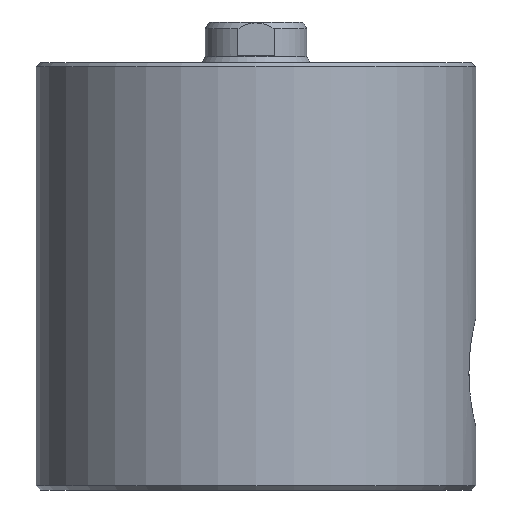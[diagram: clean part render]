
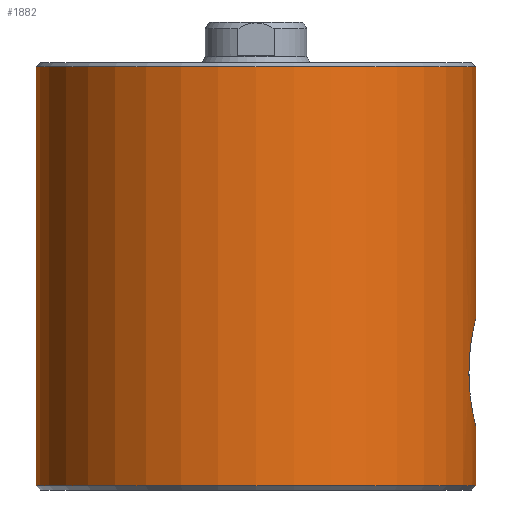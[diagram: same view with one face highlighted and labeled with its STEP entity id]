
A CAD part, front view. The second image highlights one B-rep face of the part: STEP entity #1882.
In plain terms, the highlighted cylindrical face has radius 32.4 mm (diameter 64.8 mm), a partial arc.
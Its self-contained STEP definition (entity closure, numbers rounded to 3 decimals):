
#180 = CARTESIAN_POINT ( 'NONE',  ( 32.4, -0.531, 9.349 ) ) ;
#205 = CARTESIAN_POINT ( 'NONE',  ( 32.334, -2.075, 9.619 ) ) ;
#248 = CYLINDRICAL_SURFACE ( 'NONE', #2315, 32.4 ) ;
#264 = CARTESIAN_POINT ( 'NONE',  ( 32.4, -0.262, 25.349 ) ) ;
#280 = CARTESIAN_POINT ( 'NONE',  ( 32.337, -2.085, 25.091 ) ) ;
#283 = ORIENTED_EDGE ( 'NONE', *, *, #1344, .T. ) ;
#329 = CARTESIAN_POINT ( 'NONE',  ( -32.4, 0., 0.6 ) ) ;
#395 = EDGE_CURVE ( 'NONE', #2980, #3020, #1769, .T. ) ;
#482 = CARTESIAN_POINT ( 'NONE',  ( 32.4, 0., 9.349 ) ) ;
#516 = CARTESIAN_POINT ( 'NONE',  ( 32.397, -0.524, 25.336 ) ) ;
#533 = CARTESIAN_POINT ( 'NONE',  ( 31.968, -5.285, 23.378 ) ) ;
#630 = DIRECTION ( 'NONE',  ( 0., 0., 1. ) ) ;
#724 = AXIS2_PLACEMENT_3D ( 'NONE', #1144, #630, #1520 ) ;
#728 = CARTESIAN_POINT ( 'NONE',  ( 32.4, 0., 63. ) ) ;
#758 = EDGE_CURVE ( 'NONE', #1062, #2602, #1889, .T. ) ;
#793 = CARTESIAN_POINT ( 'NONE',  ( 31.465, -7.729, 15.268 ) ) ;
#810 = CARTESIAN_POINT ( 'NONE',  ( 32.384, -1.049, 25.285 ) ) ;
#826 = CARTESIAN_POINT ( 'NONE',  ( 31.837, -6.018, 22.627 ) ) ;
#844 = CARTESIAN_POINT ( 'NONE',  ( 32.374, -1.312, 25.245 ) ) ;
#979 = CARTESIAN_POINT ( 'NONE',  ( 32.4, 0., 25.349 ) ) ;
#1049 = ORIENTED_EDGE ( 'NONE', *, *, #758, .T. ) ;
#1062 = VERTEX_POINT ( 'NONE', #2131 ) ;
#1102 = CARTESIAN_POINT ( 'NONE',  ( 0., 0., 63. ) ) ;
#1115 = CARTESIAN_POINT ( 'NONE',  ( 31.651, -6.928, 21.359 ) ) ;
#1134 = CARTESIAN_POINT ( 'NONE',  ( 32.153, -4.018, 24.286 ) ) ;
#1144 = CARTESIAN_POINT ( 'NONE',  ( 0., 0., 0.6 ) ) ;
#1153 = CARTESIAN_POINT ( 'NONE',  ( 31.935, -5.475, 11.51 ) ) ;
#1160 = EDGE_CURVE ( 'NONE', #2980, #2574, #3083, .T. ) ;
#1323 = CARTESIAN_POINT ( 'NONE',  ( 32.4, 0., 0.6 ) ) ;
#1344 = EDGE_CURVE ( 'NONE', #3190, #2574, #2812, .T. ) ;
#1349 = CARTESIAN_POINT ( 'NONE',  ( 32.387, -1.052, 9.402 ) ) ;
#1383 = CARTESIAN_POINT ( 'NONE',  ( 32.153, -4.014, 10.409 ) ) ;
#1400 = CARTESIAN_POINT ( 'NONE',  ( 31.462, -7.742, 19.43 ) ) ;
#1441 = CARTESIAN_POINT ( 'NONE',  ( 31.837, -6.026, 12.062 ) ) ;
#1474 = DIRECTION ( 'NONE',  ( 0., 0., -1. ) ) ;
#1520 = DIRECTION ( 'NONE',  ( 1., 0., 0. ) ) ;
#1707 = CARTESIAN_POINT ( 'NONE',  ( 31.741, -6.504, 22.014 ) ) ;
#1725 = VECTOR ( 'NONE', #2874, 1000. ) ;
#1732 = CARTESIAN_POINT ( 'NONE',  ( 31.593, -7.188, 13.799 ) ) ;
#1755 = FACE_OUTER_BOUND ( 'NONE', #2551, .T. ) ;
#1758 = AXIS2_PLACEMENT_3D ( 'NONE', #2477, #2213, #2160 ) ;
#1769 = B_SPLINE_CURVE_WITH_KNOTS ( 'NONE', 3,
 ( #482, #180, #1349, #3706, #205, #3632, #2322, #2893, #1383, #2043, #2852, #2578, #1153, #1441, #2008, #1992, #1732, #3755, #3771, #793, #2927, #2913, #3431, #3471, #3733, #1400, #2268, #3791, #3163, #1115, #3455, #1707, #3227, #826, #3179, #533, #2557, #1134, #2026, #2286, #280, #844, #810, #516, #264, #2539 ),
 .UNSPECIFIED., .F., .F.,
 ( 4, 2, 2, 2, 2, 2, 2, 2, 2, 2, 2, 2, 2, 2, 2, 2, 2, 2, 2, 2, 2, 2, 4 ),
 ( 0., 0.002, 0.002, 0.003, 0.005, 0.005, 0.006, 0.008, 0.009, 0.01, 0.011, 0.013, 0.014, 0.016, 0.016, 0.017, 0.018, 0.019, 0.02, 0.022, 0.024, 0.024, 0.025 ),
 .UNSPECIFIED. ) ;
#1812 = LINE ( 'NONE', #3132, #1725 ) ;
#1882 = ADVANCED_FACE ( 'NONE', ( #1755 ), #248, .T. ) ;
#1889 = CIRCLE ( 'NONE', #1758, 32.4 ) ;
#1948 = ORIENTED_EDGE ( 'NONE', *, *, #2316, .T. ) ;
#1992 = CARTESIAN_POINT ( 'NONE',  ( 31.649, -6.941, 13.337 ) ) ;
#2008 = CARTESIAN_POINT ( 'NONE',  ( 31.772, -6.356, 12.463 ) ) ;
#2026 = CARTESIAN_POINT ( 'NONE',  ( 32.209, -3.55, 24.538 ) ) ;
#2043 = CARTESIAN_POINT ( 'NONE',  ( 32.063, -4.665, 10.845 ) ) ;
#2126 = CARTESIAN_POINT ( 'NONE',  ( 32.4, 0., 9.349 ) ) ;
#2131 = CARTESIAN_POINT ( 'NONE',  ( 32.4, 0., 62.4 ) ) ;
#2160 = DIRECTION ( 'NONE',  ( 1., 0., 0. ) ) ;
#2213 = DIRECTION ( 'NONE',  ( 0., 0., -1. ) ) ;
#2263 = DIRECTION ( 'NONE',  ( 0., 0., -1. ) ) ;
#2268 = CARTESIAN_POINT ( 'NONE',  ( 31.499, -7.591, 19.93 ) ) ;
#2286 = CARTESIAN_POINT ( 'NONE',  ( 32.3, -2.584, 24.939 ) ) ;
#2315 = AXIS2_PLACEMENT_3D ( 'NONE', #1102, #1474, #2654 ) ;
#2316 = EDGE_CURVE ( 'NONE', #2602, #3190, #2573, .T. ) ;
#2322 = CARTESIAN_POINT ( 'NONE',  ( 32.277, -2.829, 9.862 ) ) ;
#2477 = CARTESIAN_POINT ( 'NONE',  ( 0., 0., 62.4 ) ) ;
#2536 = ORIENTED_EDGE ( 'NONE', *, *, #395, .T. ) ;
#2539 = CARTESIAN_POINT ( 'NONE',  ( 32.4, 0., 25.349 ) ) ;
#2551 = EDGE_LOOP ( 'NONE', ( #3661, #1049, #1948, #283, #2842, #2536 ) ) ;
#2557 = CARTESIAN_POINT ( 'NONE',  ( 32.033, -4.883, 23.707 ) ) ;
#2573 = LINE ( 'NONE', #3482, #3685 ) ;
#2574 = VERTEX_POINT ( 'NONE', #1323 ) ;
#2578 = CARTESIAN_POINT ( 'NONE',  ( 31.967, -5.282, 11.335 ) ) ;
#2602 = VERTEX_POINT ( 'NONE', #2807 ) ;
#2654 = DIRECTION ( 'NONE',  ( -1., 0., 0. ) ) ;
#2790 = DIRECTION ( 'NONE',  ( 0., 0., -1. ) ) ;
#2807 = CARTESIAN_POINT ( 'NONE',  ( -32.4, 0., 62.4 ) ) ;
#2812 = CIRCLE ( 'NONE', #724, 32.4 ) ;
#2842 = ORIENTED_EDGE ( 'NONE', *, *, #1160, .F. ) ;
#2852 = CARTESIAN_POINT ( 'NONE',  ( 32.032, -4.877, 11.002 ) ) ;
#2874 = DIRECTION ( 'NONE',  ( 0., 0., -1. ) ) ;
#2893 = CARTESIAN_POINT ( 'NONE',  ( 32.208, -3.555, 10.163 ) ) ;
#2913 = CARTESIAN_POINT ( 'NONE',  ( 31.41, -7.949, 16.301 ) ) ;
#2927 = CARTESIAN_POINT ( 'NONE',  ( 31.449, -7.794, 15.526 ) ) ;
#2980 = VERTEX_POINT ( 'NONE', #2126 ) ;
#3020 = VERTEX_POINT ( 'NONE', #979 ) ;
#3083 = LINE ( 'NONE', #728, #3537 ) ;
#3132 = CARTESIAN_POINT ( 'NONE',  ( 32.4, 0., 63. ) ) ;
#3163 = CARTESIAN_POINT ( 'NONE',  ( 31.596, -7.175, 20.898 ) ) ;
#3179 = CARTESIAN_POINT ( 'NONE',  ( 31.87, -5.841, 22.822 ) ) ;
#3190 = VERTEX_POINT ( 'NONE', #329 ) ;
#3227 = CARTESIAN_POINT ( 'NONE',  ( 31.772, -6.349, 22.223 ) ) ;
#3431 = CARTESIAN_POINT ( 'NONE',  ( 31.397, -8., 16.822 ) ) ;
#3455 = CARTESIAN_POINT ( 'NONE',  ( 31.68, -6.793, 21.582 ) ) ;
#3471 = CARTESIAN_POINT ( 'NONE',  ( 31.397, -8., 17.87 ) ) ;
#3482 = CARTESIAN_POINT ( 'NONE',  ( -32.4, 0., 63. ) ) ;
#3537 = VECTOR ( 'NONE', #2790, 1000. ) ;
#3632 = CARTESIAN_POINT ( 'NONE',  ( 32.298, -2.579, 9.772 ) ) ;
#3661 = ORIENTED_EDGE ( 'NONE', *, *, #3741, .F. ) ;
#3685 = VECTOR ( 'NONE', #2263, 1000. ) ;
#3706 = CARTESIAN_POINT ( 'NONE',  ( 32.35, -1.821, 9.555 ) ) ;
#3733 = CARTESIAN_POINT ( 'NONE',  ( 31.41, -7.948, 18.403 ) ) ;
#3741 = EDGE_CURVE ( 'NONE', #1062, #3020, #1812, .T. ) ;
#3755 = CARTESIAN_POINT ( 'NONE',  ( 31.523, -7.488, 14.521 ) ) ;
#3771 = CARTESIAN_POINT ( 'NONE',  ( 31.502, -7.576, 14.766 ) ) ;
#3791 = CARTESIAN_POINT ( 'NONE',  ( 31.57, -7.288, 20.658 ) ) ;
